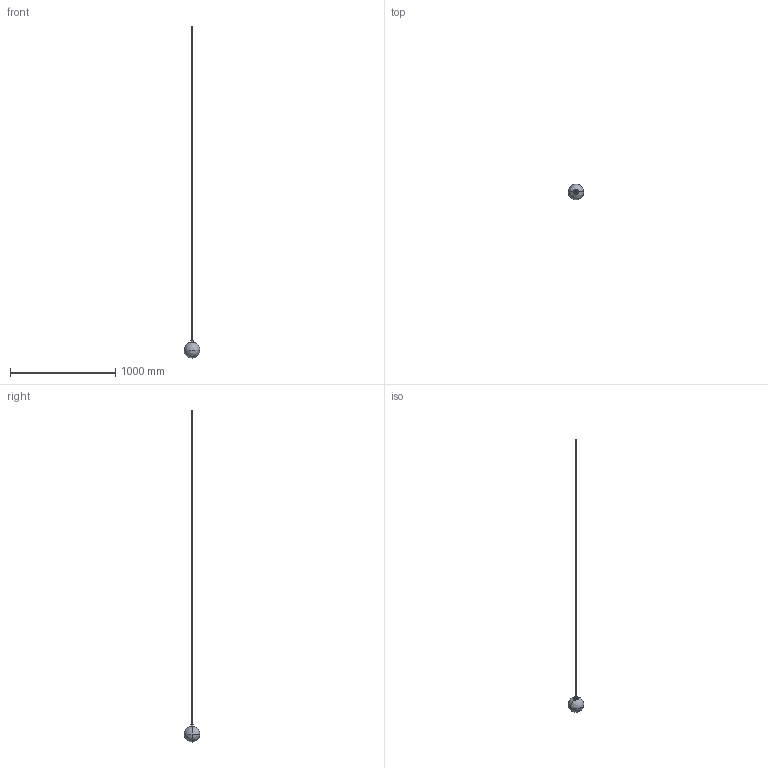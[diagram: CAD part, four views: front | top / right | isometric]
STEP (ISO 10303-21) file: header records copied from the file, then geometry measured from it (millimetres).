
FILE_DESCRIPTION(/* description */ (''),/* implementation_level */ '2;1');
FILE_NAME(/* name */ 'M115__~2',/* time_stamp */ '2024-07-03T09:39:53+02:00',/* author */ (''),/* organization */ (''),/* preprocessor_version */ 'ST-DEVELOPER v16.5',/* originating_system */ '',/* authorisation */ '');
FILE_SCHEMA (('AUTOMOTIVE_DESIGN'));
Length unit declared in the file: millimetre
Products named in the file (1): Document
Bounding box: 150 x 150 x 3147.93 mm (x, y, z)
Volume: 268483.2 mm3; surface area: 246272.1 mm2
Topology: 10 solids, 10 shells, 200 faces, 468 edges, 281 vertices
Faces by surface type: bspline 144, plane 56
Entity records: 10144 total; most frequent: CARTESIAN_POINT 7438, ORIENTED_EDGE 908, EDGE_CURVE 454, VERTEX_POINT 281, EDGE_LOOP 225, ADVANCED_FACE 200, FACE_OUTER_BOUND 200, B_SPLINE_CURVE_WITH_KNOTS 193
